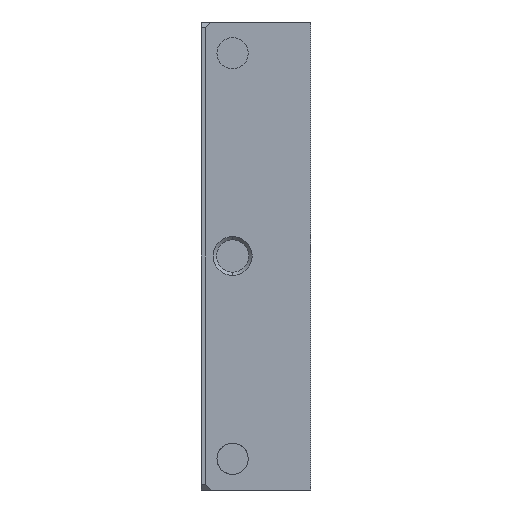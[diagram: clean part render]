
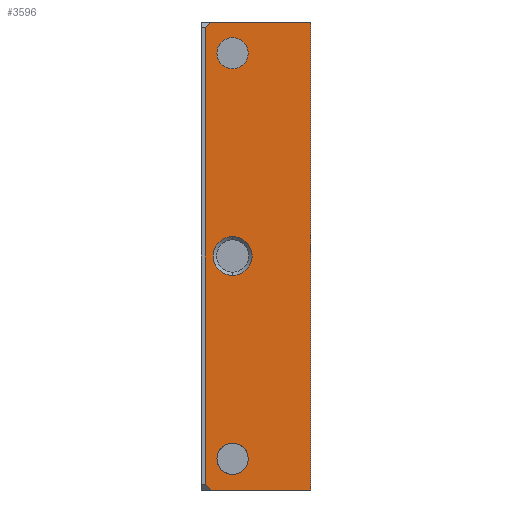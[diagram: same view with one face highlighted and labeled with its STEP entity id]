
A CAD part, left-side view. The second image highlights one B-rep face of the part: STEP entity #3596.
In plain terms, the highlighted planar face has unit normal (-1, 0, 0).
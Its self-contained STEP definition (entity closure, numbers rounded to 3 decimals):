
#227 = CARTESIAN_POINT ( 'NONE',  ( -15., 13.5, -29.25 ) ) ;
#380 = DIRECTION ( 'NONE',  ( 0., 0., 1. ) ) ;
#393 = AXIS2_PLACEMENT_3D ( 'NONE', #13751, #9753, #1136 ) ;
#429 = AXIS2_PLACEMENT_3D ( 'NONE', #3025, #15912, #4707 ) ;
#653 = DIRECTION ( 'NONE',  ( 1., 0., 0. ) ) ;
#713 = EDGE_CURVE ( 'NONE', #12248, #9482, #14615, .T. ) ;
#774 = AXIS2_PLACEMENT_3D ( 'NONE', #16623, #6618, #13427 ) ;
#845 = DIRECTION ( 'NONE',  ( 0., 0., -1. ) ) ;
#992 = CIRCLE ( 'NONE', #5798, 2.5 ) ;
#1059 = DIRECTION ( 'NONE',  ( 0., 0., 1. ) ) ;
#1136 = DIRECTION ( 'NONE',  ( 0., 0., 1. ) ) ;
#1556 = CARTESIAN_POINT ( 'NONE',  ( -15., 10., -2.5 ) ) ;
#1618 = VECTOR ( 'NONE', #5972, 1000. ) ;
#1683 = VERTEX_POINT ( 'NONE', #10206 ) ;
#2256 = CARTESIAN_POINT ( 'NONE',  ( -15., 13.5, 30. ) ) ;
#2493 = VERTEX_POINT ( 'NONE', #1556 ) ;
#2507 = CARTESIAN_POINT ( 'NONE',  ( -15., 10., 0. ) ) ;
#2622 = ORIENTED_EDGE ( 'NONE', *, *, #8878, .F. ) ;
#2853 = AXIS2_PLACEMENT_3D ( 'NONE', #2507, #9796, #11824 ) ;
#3025 = CARTESIAN_POINT ( 'NONE',  ( -15., 10., 26. ) ) ;
#3300 = ORIENTED_EDGE ( 'NONE', *, *, #7143, .F. ) ;
#3596 = ADVANCED_FACE ( 'NONE', ( #16294, #10844, #13835, #5268 ), #13655, .F. ) ;
#4707 = DIRECTION ( 'NONE',  ( 0., 0., 1. ) ) ;
#4842 = CARTESIAN_POINT ( 'NONE',  ( -15., 0., 30. ) ) ;
#5032 = ORIENTED_EDGE ( 'NONE', *, *, #12130, .T. ) ;
#5083 = EDGE_LOOP ( 'NONE', ( #5345, #11308 ) ) ;
#5252 = ORIENTED_EDGE ( 'NONE', *, *, #13620, .F. ) ;
#5268 = FACE_OUTER_BOUND ( 'NONE', #16248, .T. ) ;
#5345 = ORIENTED_EDGE ( 'NONE', *, *, #15969, .F. ) ;
#5684 = CARTESIAN_POINT ( 'NONE',  ( -15., 10., -28. ) ) ;
#5798 = AXIS2_PLACEMENT_3D ( 'NONE', #6473, #10837, #12143 ) ;
#5805 = ORIENTED_EDGE ( 'NONE', *, *, #13633, .F. ) ;
#5972 = DIRECTION ( 'NONE',  ( 0., -0.707, -0.707 ) ) ;
#6379 = VECTOR ( 'NONE', #8352, 1000. ) ;
#6473 = CARTESIAN_POINT ( 'NONE',  ( -15., 10., 0. ) ) ;
#6533 = EDGE_CURVE ( 'NONE', #9418, #13351, #10041, .T. ) ;
#6578 = VERTEX_POINT ( 'NONE', #8030 ) ;
#6618 = DIRECTION ( 'NONE',  ( -1., 0., 0. ) ) ;
#6662 = CARTESIAN_POINT ( 'NONE',  ( -15., 10., 28. ) ) ;
#6914 = VERTEX_POINT ( 'NONE', #5684 ) ;
#6987 = CIRCLE ( 'NONE', #393, 2. ) ;
#7143 = EDGE_CURVE ( 'NONE', #9383, #2493, #15672, .T. ) ;
#7772 = CARTESIAN_POINT ( 'NONE',  ( -15., 13.5, 29.25 ) ) ;
#8030 = CARTESIAN_POINT ( 'NONE',  ( -15., 0., -30. ) ) ;
#8352 = DIRECTION ( 'NONE',  ( 0., 1., 0. ) ) ;
#8363 = CARTESIAN_POINT ( 'NONE',  ( -15., 12.75, 30. ) ) ;
#8776 = EDGE_CURVE ( 'NONE', #16625, #6914, #6987, .T. ) ;
#8878 = EDGE_CURVE ( 'NONE', #6578, #1683, #15452, .T. ) ;
#8902 = LINE ( 'NONE', #9177, #12347 ) ;
#9075 = CARTESIAN_POINT ( 'NONE',  ( -15., 10., 2.5 ) ) ;
#9177 = CARTESIAN_POINT ( 'NONE',  ( -15., 0., 30. ) ) ;
#9383 = VERTEX_POINT ( 'NONE', #9075 ) ;
#9418 = VERTEX_POINT ( 'NONE', #17584 ) ;
#9448 = EDGE_CURVE ( 'NONE', #13371, #6578, #8902, .T. ) ;
#9482 = VERTEX_POINT ( 'NONE', #7772 ) ;
#9585 = EDGE_CURVE ( 'NONE', #12248, #1683, #13060, .T. ) ;
#9738 = VECTOR ( 'NONE', #13037, 1000. ) ;
#9753 = DIRECTION ( 'NONE',  ( -1., 0., 0. ) ) ;
#9781 = ORIENTED_EDGE ( 'NONE', *, *, #8776, .F. ) ;
#9796 = DIRECTION ( 'NONE',  ( -1., 0., 0. ) ) ;
#9984 = ORIENTED_EDGE ( 'NONE', *, *, #17878, .F. ) ;
#10041 = CIRCLE ( 'NONE', #774, 2. ) ;
#10136 = EDGE_LOOP ( 'NONE', ( #9781, #9984 ) ) ;
#10206 = CARTESIAN_POINT ( 'NONE',  ( -15., 12.75, -30. ) ) ;
#10837 = DIRECTION ( 'NONE',  ( -1., 0., 0. ) ) ;
#10844 = FACE_BOUND ( 'NONE', #5083, .T. ) ;
#11113 = EDGE_LOOP ( 'NONE', ( #3300, #5252 ) ) ;
#11308 = ORIENTED_EDGE ( 'NONE', *, *, #6533, .F. ) ;
#11543 = LINE ( 'NONE', #15852, #9738 ) ;
#11611 = CARTESIAN_POINT ( 'NONE',  ( -15., 13.5, 30. ) ) ;
#11771 = DIRECTION ( 'NONE',  ( 0., 0., -1. ) ) ;
#11824 = DIRECTION ( 'NONE',  ( 0., 0., 1. ) ) ;
#12130 = EDGE_CURVE ( 'NONE', #15592, #9482, #11543, .T. ) ;
#12143 = DIRECTION ( 'NONE',  ( 0., 0., 1. ) ) ;
#12174 = DIRECTION ( 'NONE',  ( -1., 0., 0. ) ) ;
#12248 = VERTEX_POINT ( 'NONE', #227 ) ;
#12347 = VECTOR ( 'NONE', #11771, 1000. ) ;
#12686 = ORIENTED_EDGE ( 'NONE', *, *, #9448, .F. ) ;
#12872 = ORIENTED_EDGE ( 'NONE', *, *, #713, .F. ) ;
#12964 = CARTESIAN_POINT ( 'NONE',  ( -15., 13.5, -29.25 ) ) ;
#13037 = DIRECTION ( 'NONE',  ( 0., 0.707, -0.707 ) ) ;
#13060 = LINE ( 'NONE', #12964, #1618 ) ;
#13258 = CARTESIAN_POINT ( 'NONE',  ( -15., 10., -24. ) ) ;
#13351 = VERTEX_POINT ( 'NONE', #6662 ) ;
#13371 = VERTEX_POINT ( 'NONE', #4842 ) ;
#13427 = DIRECTION ( 'NONE',  ( 0., 0., 1. ) ) ;
#13466 = CARTESIAN_POINT ( 'NONE',  ( -15., 0., 0. ) ) ;
#13620 = EDGE_CURVE ( 'NONE', #2493, #9383, #992, .T. ) ;
#13633 = EDGE_CURVE ( 'NONE', #15592, #13371, #14882, .T. ) ;
#13655 = PLANE ( 'NONE',  #14470 ) ;
#13751 = CARTESIAN_POINT ( 'NONE',  ( -15., 10., -26. ) ) ;
#13835 = FACE_BOUND ( 'NONE', #10136, .T. ) ;
#13860 = CARTESIAN_POINT ( 'NONE',  ( -15., 10., -26. ) ) ;
#13869 = VECTOR ( 'NONE', #380, 1000. ) ;
#14470 = AXIS2_PLACEMENT_3D ( 'NONE', #13466, #653, #845 ) ;
#14615 = LINE ( 'NONE', #11611, #13869 ) ;
#14774 = CIRCLE ( 'NONE', #429, 2. ) ;
#14882 = LINE ( 'NONE', #2256, #16224 ) ;
#15416 = AXIS2_PLACEMENT_3D ( 'NONE', #13860, #12174, #1059 ) ;
#15452 = LINE ( 'NONE', #17972, #6379 ) ;
#15592 = VERTEX_POINT ( 'NONE', #8363 ) ;
#15672 = CIRCLE ( 'NONE', #2853, 2.5 ) ;
#15712 = CIRCLE ( 'NONE', #15416, 2. ) ;
#15852 = CARTESIAN_POINT ( 'NONE',  ( -15., 12.75, 30. ) ) ;
#15912 = DIRECTION ( 'NONE',  ( -1., 0., 0. ) ) ;
#15969 = EDGE_CURVE ( 'NONE', #13351, #9418, #14774, .T. ) ;
#16224 = VECTOR ( 'NONE', #16285, 1000. ) ;
#16248 = EDGE_LOOP ( 'NONE', ( #12872, #18273, #2622, #12686, #5805, #5032 ) ) ;
#16285 = DIRECTION ( 'NONE',  ( 0., -1., 0. ) ) ;
#16294 = FACE_BOUND ( 'NONE', #11113, .T. ) ;
#16623 = CARTESIAN_POINT ( 'NONE',  ( -15., 10., 26. ) ) ;
#16625 = VERTEX_POINT ( 'NONE', #13258 ) ;
#17584 = CARTESIAN_POINT ( 'NONE',  ( -15., 10., 24. ) ) ;
#17878 = EDGE_CURVE ( 'NONE', #6914, #16625, #15712, .T. ) ;
#17972 = CARTESIAN_POINT ( 'NONE',  ( -15., 13.5, -30. ) ) ;
#18273 = ORIENTED_EDGE ( 'NONE', *, *, #9585, .T. ) ;
